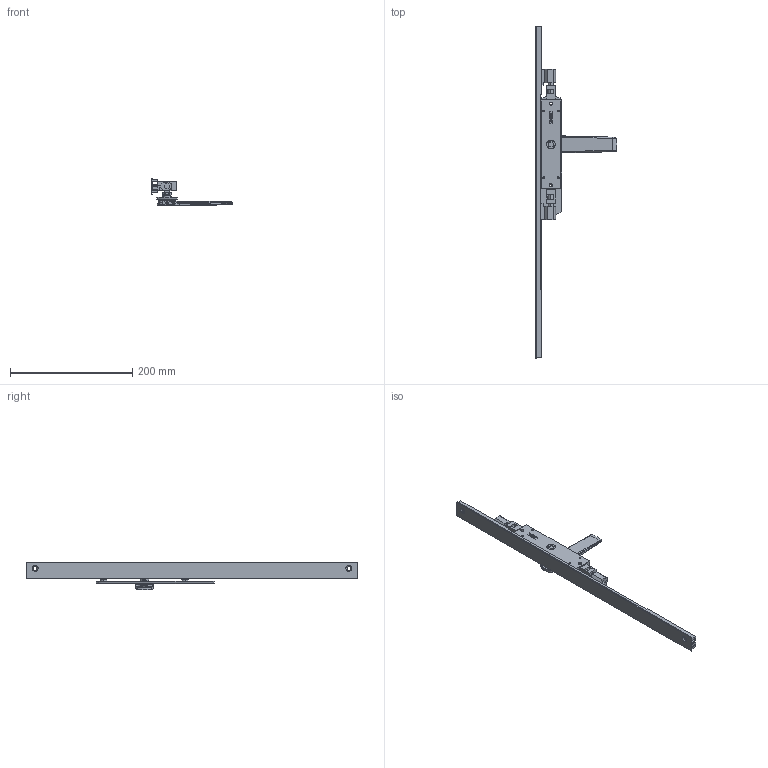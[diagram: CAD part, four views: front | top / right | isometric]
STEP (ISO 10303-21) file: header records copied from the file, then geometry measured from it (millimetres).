
FILE_DESCRIPTION (( 'STEP AP214' ), '1' );
FILE_NAME ('TPL-W-EU-601-U 06Nov2024.STEP', '2024-11-27T00:55:08', ( '' ), ( '' ), 'SwSTEP 2.0', 'SolidWorks 2023', '' );
FILE_SCHEMA (( 'AUTOMOTIVE_DESIGN' ));
Length unit declared in the file: millimetre
Products named in the file (18): Copy of TPGen2 handle non-keyed short zinc - simplified^TPL-W-EU-101 04Nov2024_Left; Copy of LKC-584 Pivot body zinc - simplified^Copy of TPGen2 handle non-keyed short zinc - simplified_TPL-W-EU-101 04Nov2024; Copy of Adapter CnE - simplfied^TPL-W-EU-101 04Nov2024_26mm backset; Copy of LKC-531-A Rod TPLGen2 machined bolt end^TPL-W-EU-101 04Nov2024_LKC-531-A-M003; Copy of TPLGen2 lock body non-keyed assembly^TPL-W-EU-101 04Nov2024_Bolts retracted; COV-112-A Cover A suit TPLGen2 standard range^TPL-W-EU-101 04Nov2024_2870mm; Copy of LKC-585 Rotator body zinc^Copy of TPGen2 handle non-keyed short zinc - simplified_TPL-W-EU-101 04Nov2024; Copy of TPLGen2 push rod - simplified^Copy of TPLGen2 lock body non-keyed assembly_TPL-W-EU-101 04Nov2024_Female thread M10; TPL-W-EU-601-U 06Nov2024; Bottom twinpoint transmission rod wood system^TPL-W-EU-101 04Nov2024_Standard Range 2891.7mm; COV-112-B Cover B suit TPLGen2 standard range^TPL-W-EU-101 04Nov2024_2870mm; Copy of LKC-505 Swing handle zinc - simplified^Copy of TPGen2 handle non-keyed short zinc - simplified_TPL-W-EU-101 04Nov2024; Copy of COV-112-C Cover C TPLGen2 Lock body^TPL-W-EU-101 04Nov2024; Bolt.step; Copy of LKC-516 Escutcheon plate unkeyed 195mm long zinc - simplified^Copy of TPGen2 handle non-keyed short zinc - simplified_TPL-W-EU-101 04Nov2024; Copy of LKC-586 Spindle square 8mm with M4 hole^Copy of TPGen2 handle non-keyed short zinc - simplified_TPL-W-EU-101 04Nov2024_25mm; Copy of TPLGen2 lock body non-keyed^Copy of TPLGen2 lock body non-keyed assembly_TPL-W-EU-101 04Nov2024; Copy of Adapter DnF - simplfied^TPL-W-EU-101 04Nov2024_26mm backset
Assembly tree (15 placements, depth 3):
  COV-112-A Cover A suit TPLGen2 standard range^TPL-W-EU-101 04Nov2024_2870mm
  TPL-W-EU-601-U 06Nov2024
    Copy of TPLGen2 lock body non-keyed assembly^TPL-W-EU-101 04Nov2024_Bolts retracted
      Copy of TPLGen2 lock body non-keyed^Copy of TPLGen2 lock body non-keyed assembly_TPL-W-EU-101 04Nov2024
      Copy of TPLGen2 push rod - simplified^Copy of TPLGen2 lock body non-keyed assembly_TPL-W-EU-101 04Nov2024_Female thread M10  x2
    Copy of TPGen2 handle non-keyed short zinc - simplified^TPL-W-EU-101 04Nov2024_Left
      Copy of LKC-516 Escutcheon plate unkeyed 195mm long zinc - simplified^Copy of TPGen2 handle non-keyed short zinc - simplified_TPL-W-EU-101 04Nov2024
      Copy of LKC-505 Swing handle zinc - simplified^Copy of TPGen2 handle non-keyed short zinc - simplified_TPL-W-EU-101 04Nov2024
      Copy of LKC-585 Rotator body zinc^Copy of TPGen2 handle non-keyed short zinc - simplified_TPL-W-EU-101 04Nov2024
      Copy of LKC-586 Spindle square 8mm with M4 hole^Copy of TPGen2 handle non-keyed short zinc - simplified_TPL-W-EU-101 04Nov2024_25mm
      Copy of LKC-584 Pivot body zinc - simplified^Copy of TPGen2 handle non-keyed short zinc - simplified_TPL-W-EU-101 04Nov2024
    Copy of COV-112-C Cover C TPLGen2 Lock body^TPL-W-EU-101 04Nov2024
    Bottom twinpoint transmission rod wood system^TPL-W-EU-101 04Nov2024_Standard Range 2891.7mm
    Copy of LKC-531-A Rod TPLGen2 machined bolt end^TPL-W-EU-101 04Nov2024_LKC-531-A-M003
    Copy of Adapter DnF - simplfied^TPL-W-EU-101 04Nov2024_26mm backset
    Copy of Adapter CnE - simplfied^TPL-W-EU-101 04Nov2024_26mm backset
  COV-112-B Cover B suit TPLGen2 standard range^TPL-W-EU-101 04Nov2024_2870mm
  Bolt.step
Bounding box: 134.12 x 544 x 45.86 mm (x, y, z)
Volume: 208630.6 mm3; surface area: 119857.1 mm2
Topology: 13 solids, 13 shells, 857 faces, 2119 edges, 1317 vertices
Faces by surface type: plane 310, bspline 241, cylinder 186, cone 66, torus 46, sphere 8
Entity records: 30895 total; most frequent: CARTESIAN_POINT 12601, ORIENTED_EDGE 4046, DIRECTION 3230, EDGE_CURVE 2023, VERTEX_POINT 1257, AXIS2_PLACEMENT_3D 1164, EDGE_LOOP 904, LINE 902
